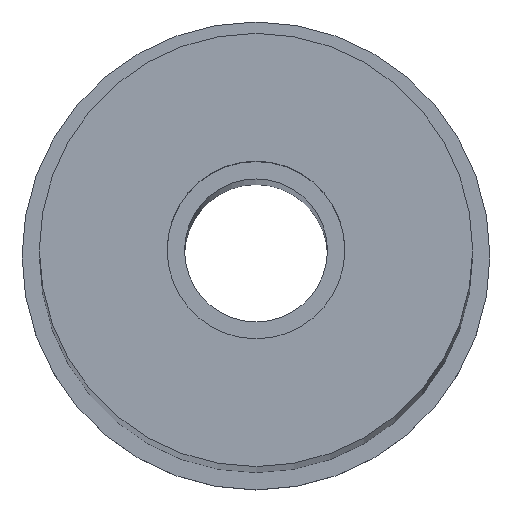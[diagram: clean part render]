
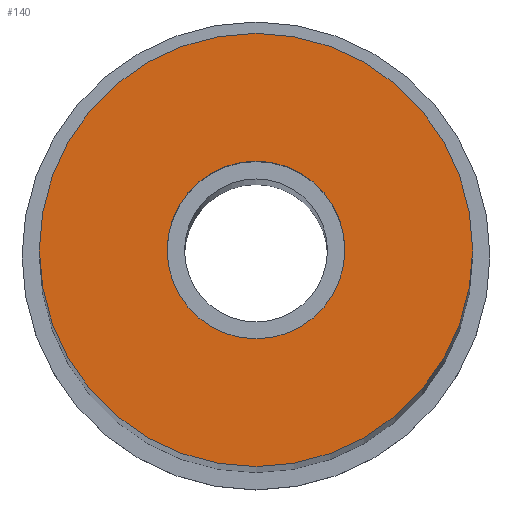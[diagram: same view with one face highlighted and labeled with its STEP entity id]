
A CAD part, top view. The second image highlights one B-rep face of the part: STEP entity #140.
In plain terms, the highlighted planar face has unit normal (0, 0, 1).
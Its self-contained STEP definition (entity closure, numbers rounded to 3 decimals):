
#24 = VERTEX_POINT('',#25);
#25 = CARTESIAN_POINT('',(5.,0.,80.));
#32 = CYLINDRICAL_SURFACE('',#33,5.);
#33 = AXIS2_PLACEMENT_3D('',#34,#35,#36);
#34 = CARTESIAN_POINT('',(0.,0.,0.));
#35 = DIRECTION('',(0.,0.,1.));
#36 = DIRECTION('',(1.,0.,-0.));
#51 = EDGE_CURVE('',#24,#24,#52,.T.);
#52 = SURFACE_CURVE('',#53,(#58,#65),.PCURVE_S1.);
#53 = CIRCLE('',#54,5.);
#54 = AXIS2_PLACEMENT_3D('',#55,#56,#57);
#55 = CARTESIAN_POINT('',(0.,0.,80.));
#56 = DIRECTION('',(0.,0.,1.));
#57 = DIRECTION('',(1.,0.,-0.));
#58 = PCURVE('',#32,#59);
#59 = DEFINITIONAL_REPRESENTATION('',(#60),#64);
#60 = LINE('',#61,#62);
#61 = CARTESIAN_POINT('',(0.,80.));
#62 = VECTOR('',#63,1.);
#63 = DIRECTION('',(1.,0.));
#64 = ( GEOMETRIC_REPRESENTATION_CONTEXT(2) 
PARAMETRIC_REPRESENTATION_CONTEXT() REPRESENTATION_CONTEXT('2D SPACE',''
  ) );
#65 = PCURVE('',#66,#71);
#66 = PLANE('',#67);
#67 = AXIS2_PLACEMENT_3D('',#68,#69,#70);
#68 = CARTESIAN_POINT('',(0.,0.,80.));
#69 = DIRECTION('',(0.,0.,1.));
#70 = DIRECTION('',(1.,0.,-0.));
#71 = DEFINITIONAL_REPRESENTATION('',(#72),#76);
#72 = CIRCLE('',#73,5.);
#73 = AXIS2_PLACEMENT_2D('',#74,#75);
#74 = CARTESIAN_POINT('',(0.,0.));
#75 = DIRECTION('',(1.,0.));
#76 = ( GEOMETRIC_REPRESENTATION_CONTEXT(2) 
PARAMETRIC_REPRESENTATION_CONTEXT() REPRESENTATION_CONTEXT('2D SPACE',''
  ) );
#140 = ADVANCED_FACE('',(#141,#144),#66,.T.);
#141 = FACE_BOUND('',#142,.T.);
#142 = EDGE_LOOP('',(#143));
#143 = ORIENTED_EDGE('',*,*,#51,.T.);
#144 = FACE_BOUND('',#145,.T.);
#145 = EDGE_LOOP('',(#146));
#146 = ORIENTED_EDGE('',*,*,#147,.F.);
#147 = EDGE_CURVE('',#148,#148,#150,.T.);
#148 = VERTEX_POINT('',#149);
#149 = CARTESIAN_POINT('',(2.05,0.,80.));
#150 = SURFACE_CURVE('',#151,(#156,#163),.PCURVE_S1.);
#151 = CIRCLE('',#152,2.05);
#152 = AXIS2_PLACEMENT_3D('',#153,#154,#155);
#153 = CARTESIAN_POINT('',(0.,0.,80.));
#154 = DIRECTION('',(0.,0.,1.));
#155 = DIRECTION('',(1.,0.,-0.));
#156 = PCURVE('',#66,#157);
#157 = DEFINITIONAL_REPRESENTATION('',(#158),#162);
#158 = CIRCLE('',#159,2.05);
#159 = AXIS2_PLACEMENT_2D('',#160,#161);
#160 = CARTESIAN_POINT('',(0.,0.));
#161 = DIRECTION('',(1.,0.));
#162 = ( GEOMETRIC_REPRESENTATION_CONTEXT(2) 
PARAMETRIC_REPRESENTATION_CONTEXT() REPRESENTATION_CONTEXT('2D SPACE',''
  ) );
#163 = PCURVE('',#164,#169);
#164 = CYLINDRICAL_SURFACE('',#165,2.05);
#165 = AXIS2_PLACEMENT_3D('',#166,#167,#168);
#166 = CARTESIAN_POINT('',(0.,0.,74.));
#167 = DIRECTION('',(0.,0.,1.));
#168 = DIRECTION('',(1.,0.,-0.));
#169 = DEFINITIONAL_REPRESENTATION('',(#170),#174);
#170 = LINE('',#171,#172);
#171 = CARTESIAN_POINT('',(0.,6.));
#172 = VECTOR('',#173,1.);
#173 = DIRECTION('',(1.,0.));
#174 = ( GEOMETRIC_REPRESENTATION_CONTEXT(2) 
PARAMETRIC_REPRESENTATION_CONTEXT() REPRESENTATION_CONTEXT('2D SPACE',''
  ) );
